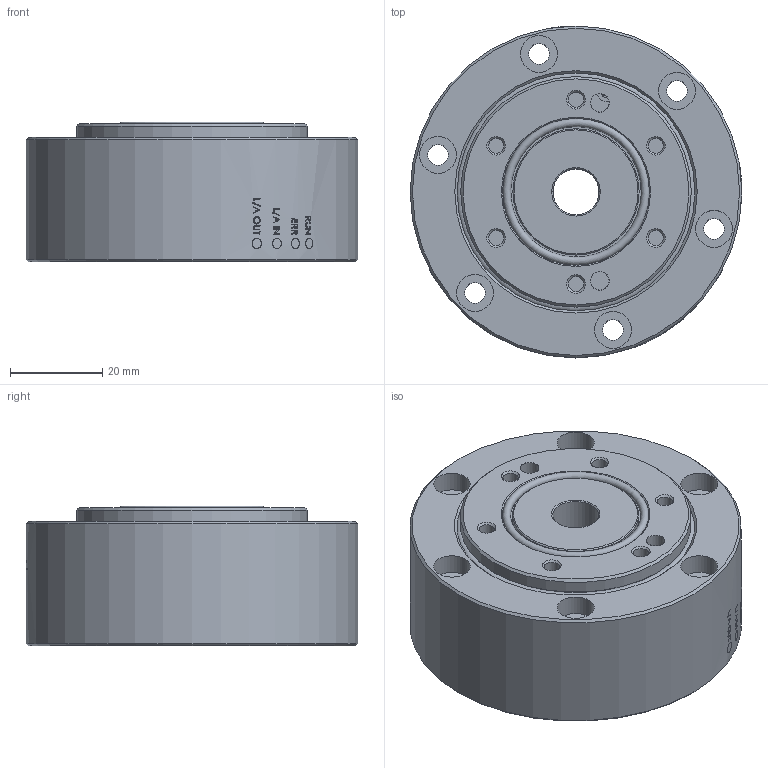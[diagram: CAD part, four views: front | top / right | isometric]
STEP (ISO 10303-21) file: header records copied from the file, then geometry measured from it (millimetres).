
FILE_DESCRIPTION (( 'STEP AP214' ), '1' );
FILE_NAME ('PixONE T25 3D File.STEP', '2025-08-08T11:38:55', ( '' ), ( '' ), 'SwSTEP 2.0', 'SolidWorks 2022', '' );
FILE_SCHEMA (( 'AUTOMOTIVE_DESIGN' ));
Length unit declared in the file: millimetre
Products named in the file (1): PixONE T25 3D File
Bounding box: 72 x 72 x 30.35 mm (x, y, z)
Surface area: 28967.2 mm2 (no closed solid volume)
Topology: 0 solids, 35 shells, 579 faces, 2478 edges, 1869 vertices
Faces by surface type: plane 382, bspline 79, cylinder 78, cone 32, torus 5, sphere 3
Full cylindrical faces by diameter (mm): 1.6 x1, 2.2 x2, 3 x2, 3.2 x3, 3.3 x6, 4 x2, 4.5 x6, 8 x6, 10 x2, 11.42 x1, 15.98 x1, 17 x1, 18 x1, 27.4 x1, 31.86 x1, 47.433 x1, 50 x1, 50.025 x1, 51 x1, 51.6 x1, 52.83 x1, 57.26 x1, 72 x1
Entity records: 34007 total; most frequent: CARTESIAN_POINT 9383, ORIENTED_EDGE 3493, DIRECTION 3164, EDGE_CURVE 2382, VERTEX_POINT 1846, LINE 1398, VECTOR 1398, AXIS2_PLACEMENT_3D 883
